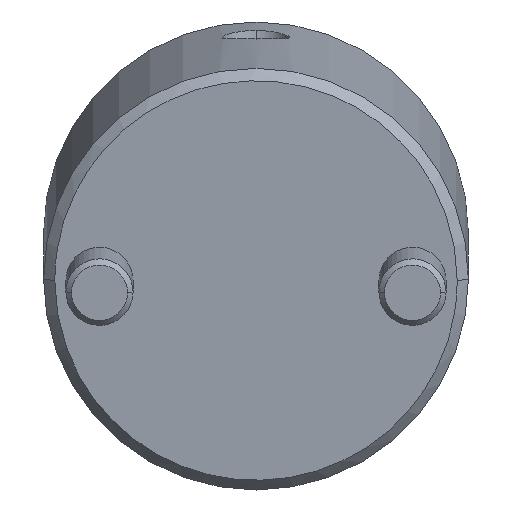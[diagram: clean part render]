
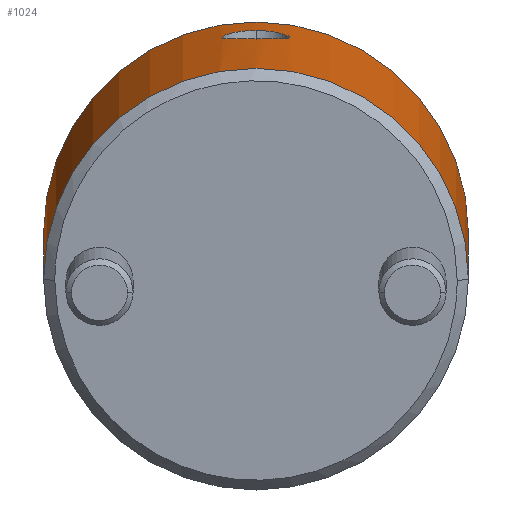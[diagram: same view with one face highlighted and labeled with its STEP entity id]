
A CAD part, front view. The second image highlights one B-rep face of the part: STEP entity #1024.
In plain terms, the highlighted cylindrical face has radius 19 mm (diameter 38 mm), a partial arc.
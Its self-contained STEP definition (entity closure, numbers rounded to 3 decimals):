
#760=CARTESIAN_POINT('Vertex',(0.,19.,1.)) ;
#763=CARTESIAN_POINT('Axis2P3D Location',(0.,0.,1.)) ;
#767=CARTESIAN_POINT('Vertex',(0.,-19.,1.)) ;
#919=CARTESIAN_POINT('Axis2P3D Location',(0.,0.,-1.8)) ;
#924=CARTESIAN_POINT('Line Origine',(0.,19.,-1.8)) ;
#928=CARTESIAN_POINT('Vertex',(0.,19.,35.)) ;
#931=CARTESIAN_POINT('Axis2P3D Location',(0.,0.,35.)) ;
#935=CARTESIAN_POINT('Vertex',(0.,-19.,35.)) ;
#938=CARTESIAN_POINT('Line Origine',(0.,-19.,-1.8)) ;
#950=CARTESIAN_POINT('Control Point',(19.,0.,28.749)) ;
#951=CARTESIAN_POINT('Control Point',(19.,0.083,28.749)) ;
#952=CARTESIAN_POINT('Control Point',(19.,0.165,28.746)) ;
#953=CARTESIAN_POINT('Control Point',(18.999,0.248,28.74)) ;
#954=CARTESIAN_POINT('Control Point',(18.995,0.495,28.714)) ;
#955=CARTESIAN_POINT('Control Point',(18.987,0.739,28.661)) ;
#956=CARTESIAN_POINT('Control Point',(18.979,0.904,28.613)) ;
#957=CARTESIAN_POINT('Control Point',(18.962,1.22,28.496)) ;
#958=CARTESIAN_POINT('Control Point',(18.94,1.514,28.337)) ;
#959=CARTESIAN_POINT('Control Point',(18.928,1.657,28.245)) ;
#960=CARTESIAN_POINT('Control Point',(18.903,1.931,28.043)) ;
#961=CARTESIAN_POINT('Control Point',(18.876,2.173,27.806)) ;
#962=CARTESIAN_POINT('Control Point',(18.862,2.286,27.678)) ;
#963=CARTESIAN_POINT('Control Point',(18.836,2.494,27.407)) ;
#964=CARTESIAN_POINT('Control Point',(18.813,2.664,27.109)) ;
#965=CARTESIAN_POINT('Control Point',(18.802,2.738,26.955)) ;
#966=CARTESIAN_POINT('Control Point',(18.783,2.864,26.639)) ;
#967=CARTESIAN_POINT('Control Point',(18.77,2.946,26.305)) ;
#968=CARTESIAN_POINT('Control Point',(18.766,2.976,26.134)) ;
#969=CARTESIAN_POINT('Control Point',(18.76,3.011,25.795)) ;
#970=CARTESIAN_POINT('Control Point',(18.762,2.998,25.456)) ;
#971=CARTESIAN_POINT('Control Point',(18.765,2.979,25.287)) ;
#972=CARTESIAN_POINT('Control Point',(18.777,2.904,24.869)) ;
#973=CARTESIAN_POINT('Control Point',(18.799,2.759,24.473)) ;
#974=CARTESIAN_POINT('Control Point',(18.816,2.645,24.245)) ;
#975=CARTESIAN_POINT('Control Point',(18.859,2.328,23.745)) ;
#976=CARTESIAN_POINT('Control Point',(18.907,1.9,23.338)) ;
#977=CARTESIAN_POINT('Control Point',(18.934,1.62,23.139)) ;
#978=CARTESIAN_POINT('Control Point',(18.971,1.134,22.89)) ;
#979=CARTESIAN_POINT('Control Point',(18.992,0.605,22.755)) ;
#980=CARTESIAN_POINT('Control Point',(18.997,0.404,22.72)) ;
#981=CARTESIAN_POINT('Control Point',(19.,0.203,22.704)) ;
#982=CARTESIAN_POINT('Control Point',(19.,0.,22.704)) ;
#983=CARTESIAN_POINT('Vertex',(19.,0.,28.749)) ;
#985=CARTESIAN_POINT('Vertex',(19.,0.,22.704)) ;
#989=CARTESIAN_POINT('Control Point',(19.,0.,22.704)) ;
#990=CARTESIAN_POINT('Control Point',(19.,-0.168,22.704)) ;
#991=CARTESIAN_POINT('Control Point',(18.998,-0.336,22.715)) ;
#992=CARTESIAN_POINT('Control Point',(18.994,-0.503,22.739)) ;
#993=CARTESIAN_POINT('Control Point',(18.983,-0.835,22.809)) ;
#994=CARTESIAN_POINT('Control Point',(18.966,-1.155,22.925)) ;
#995=CARTESIAN_POINT('Control Point',(18.956,-1.309,22.993)) ;
#996=CARTESIAN_POINT('Control Point',(18.933,-1.607,23.152)) ;
#997=CARTESIAN_POINT('Control Point',(18.907,-1.881,23.351)) ;
#998=CARTESIAN_POINT('Control Point',(18.894,-2.01,23.46)) ;
#999=CARTESIAN_POINT('Control Point',(18.867,-2.252,23.694)) ;
#1000=CARTESIAN_POINT('Control Point',(18.841,-2.457,23.961)) ;
#1001=CARTESIAN_POINT('Control Point',(18.828,-2.551,24.102)) ;
#1002=CARTESIAN_POINT('Control Point',(18.799,-2.759,24.466)) ;
#1003=CARTESIAN_POINT('Control Point',(18.778,-2.9,24.863)) ;
#1004=CARTESIAN_POINT('Control Point',(18.768,-2.959,25.114)) ;
#1005=CARTESIAN_POINT('Control Point',(18.759,-3.015,25.535)) ;
#1006=CARTESIAN_POINT('Control Point',(18.762,-2.996,25.959)) ;
#1007=CARTESIAN_POINT('Control Point',(18.765,-2.976,26.13)) ;
#1008=CARTESIAN_POINT('Control Point',(18.778,-2.898,26.553)) ;
#1009=CARTESIAN_POINT('Control Point',(18.801,-2.748,26.955)) ;
#1010=CARTESIAN_POINT('Control Point',(18.817,-2.632,27.187)) ;
#1011=CARTESIAN_POINT('Control Point',(18.861,-2.311,27.694)) ;
#1012=CARTESIAN_POINT('Control Point',(18.909,-1.881,28.106)) ;
#1013=CARTESIAN_POINT('Control Point',(18.936,-1.604,28.308)) ;
#1014=CARTESIAN_POINT('Control Point',(18.971,-1.123,28.56)) ;
#1015=CARTESIAN_POINT('Control Point',(18.992,-0.597,28.698)) ;
#1016=CARTESIAN_POINT('Control Point',(18.997,-0.399,28.732)) ;
#1017=CARTESIAN_POINT('Control Point',(19.,-0.2,28.749)) ;
#1018=CARTESIAN_POINT('Control Point',(19.,0.,28.749)) ;
#764=DIRECTION('Axis2P3D Direction',(0.,0.,1.)) ;
#920=DIRECTION('Axis2P3D Direction',(0.,-0.,1.)) ;
#921=DIRECTION('Axis2P3D XDirection',(0.,-1.,0.)) ;
#925=DIRECTION('Vector Direction',(0.,0.,1.)) ;
#932=DIRECTION('Axis2P3D Direction',(0.,-0.,1.)) ;
#939=DIRECTION('Vector Direction',(0.,0.,1.)) ;
#765=AXIS2_PLACEMENT_3D('Circle Axis2P3D',#763,#764,$) ;
#922=AXIS2_PLACEMENT_3D('Cylinder Axis2P3D',#919,#920,#921) ;
#933=AXIS2_PLACEMENT_3D('Circle Axis2P3D',#931,#932,$) ;
#944=ORIENTED_EDGE('',*,*,#930,.F.) ;
#945=ORIENTED_EDGE('',*,*,#937,.T.) ;
#946=ORIENTED_EDGE('',*,*,#942,.T.) ;
#947=ORIENTED_EDGE('',*,*,#769,.F.) ;
#1021=ORIENTED_EDGE('',*,*,#987,.T.) ;
#1022=ORIENTED_EDGE('',*,*,#1019,.T.) ;
#1023=FACE_BOUND('',#1020,.T.) ;
#926=VECTOR('Line Direction',#925,1.) ;
#940=VECTOR('Line Direction',#939,1.) ;
#1024=ADVANCED_FACE('MANIFOLD_SOLID_BREP #1116',(#948,#1023),#923,.T.) ;
#949=B_SPLINE_CURVE_WITH_KNOTS('',5,(#950,#951,#952,#953,#954,#955,#956,#957,#958,#959,#960,#961,#962,#963,#964,#965,#966,#967,#968,#969,#970,#971,#972,#973,#974,#975,#976,#977,#978,#979,#980,#981,#982),.UNSPECIFIED.,.F.,.U.,(6,3,3,3,3,3,3,3,3,3,6),(0.,0.591,1.779,2.983,4.199,5.399,6.591,7.777,9.567,11.962,13.402),.UNSPECIFIED.) ;
#988=B_SPLINE_CURVE_WITH_KNOTS('',5,(#989,#990,#991,#992,#993,#994,#995,#996,#997,#998,#999,#1000,#1001,#1002,#1003,#1004,#1005,#1006,#1007,#1008,#1009,#1010,#1011,#1012,#1013,#1014,#1015,#1016,#1017,#1018),.UNSPECIFIED.,.F.,.U.,(6,3,3,3,3,3,3,3,3,6),(0.,1.203,2.402,3.608,4.808,6.587,7.776,9.58,11.983,13.405),.UNSPECIFIED.) ;
#766=CIRCLE('generated circle',#765,19.) ;
#934=CIRCLE('generated circle',#933,19.) ;
#923=CYLINDRICAL_SURFACE('generated cylinder',#922,19.) ;
#769=EDGE_CURVE('',#761,#768,#766,.F.) ;
#930=EDGE_CURVE('',#929,#761,#927,.F.) ;
#937=EDGE_CURVE('',#929,#936,#934,.F.) ;
#942=EDGE_CURVE('',#936,#768,#941,.F.) ;
#987=EDGE_CURVE('',#984,#986,#949,.T.) ;
#1019=EDGE_CURVE('',#986,#984,#988,.T.) ;
#943=EDGE_LOOP('',(#944,#945,#946,#947)) ;
#1020=EDGE_LOOP('',(#1021,#1022)) ;
#948=FACE_OUTER_BOUND('',#943,.T.) ;
#927=LINE('Line',#924,#926) ;
#941=LINE('Line',#938,#940) ;
#761=VERTEX_POINT('',#760) ;
#768=VERTEX_POINT('',#767) ;
#929=VERTEX_POINT('',#928) ;
#936=VERTEX_POINT('',#935) ;
#984=VERTEX_POINT('',#983) ;
#986=VERTEX_POINT('',#985) ;
